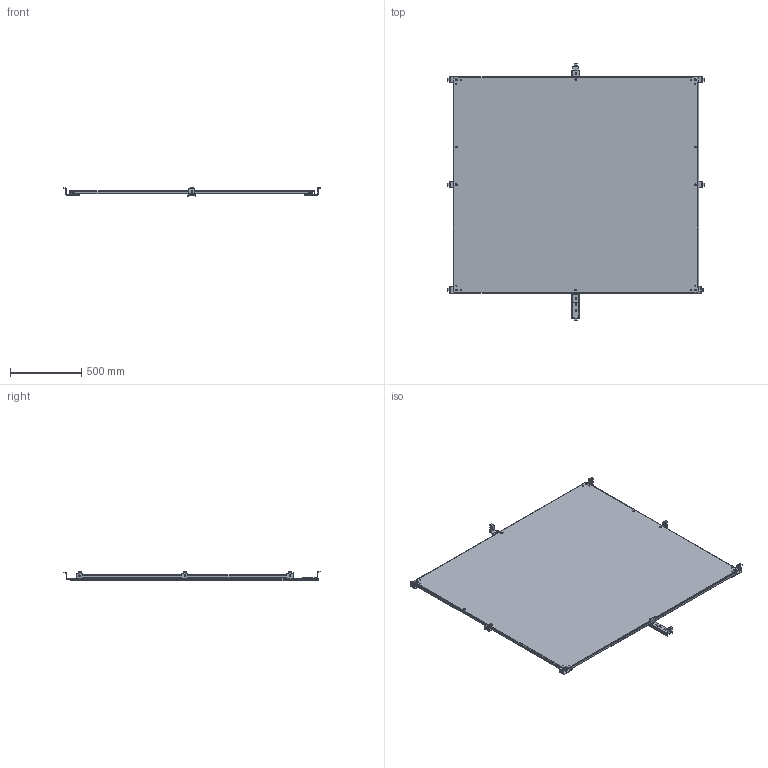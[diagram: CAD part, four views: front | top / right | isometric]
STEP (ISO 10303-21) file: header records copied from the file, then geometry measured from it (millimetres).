
FILE_DESCRIPTION (( 'STEP AP203' ), '1' );
FILE_NAME ('27060.step', '2014-01-15T12:33:56', ( '' ), ( '' ), 'SwSTEP 2.0', 'SolidWorks 2010', '' );
FILE_SCHEMA (( 'CONFIG_CONTROL_DESIGN' ));
Length unit declared in the file: inch
Products named in the file (9): 78173001_78173001; 27133001_27133001; 26369002_26369002; 27060; 87791207_87791207; 91307083_Installed config; 26294001_26294001; 99411350_Installed config; 27134001
Assembly tree (21 placements, depth 3):
  27060
    99411350_Installed config
      27134001  x2
      78173001_78173001  x2
      27133001_27133001
    91307083_Installed config
      78173001_78173001  x6
      26294001_26294001  x6
    87791207_87791207
    26369002_26369002
Bounding box: 1805.13 x 1802.34 x 66.67 mm (x, y, z)
Volume: 8913808.3 mm3; surface area: 5910189.3 mm2
Topology: 19 solids, 19 shells, 942 faces, 2468 edges, 1576 vertices
Faces by surface type: plane 552, cylinder 242, bspline 132, cone 16
Entity records: 22339 total; most frequent: CARTESIAN_POINT 8658, ORIENTED_EDGE 2796, DIRECTION 2094, EDGE_CURVE 1398, LINE 966, VECTOR 966, VERTEX_POINT 904, EDGE_LOOP 608
